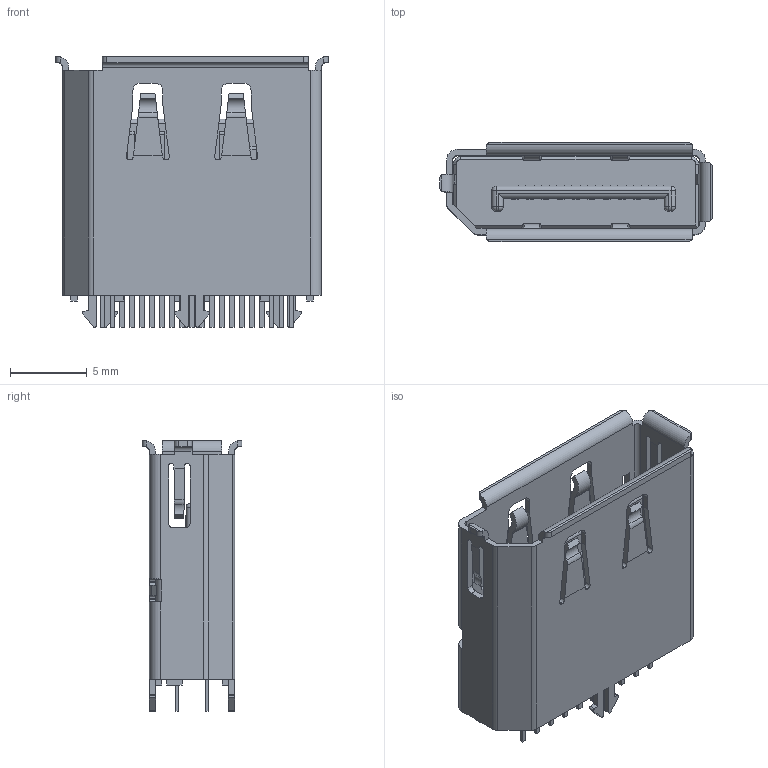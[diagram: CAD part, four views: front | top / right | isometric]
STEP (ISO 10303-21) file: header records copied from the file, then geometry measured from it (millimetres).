
FILE_DESCRIPTION((''),'2;1');
FILE_NAME('C-2041441-1','2015-02-09T',('workeradm'),('Tyco Electronics Ltd.'),'PRO/ENGINEER BY PARAMETRIC TECHNOLOGY CORPORATION, 2014090','PRO/ENGINEER BY PARAMETRIC TECHNOLOGY CORPORATION, 2014090','');
FILE_SCHEMA(('AUTOMOTIVE_DESIGN { 1 0 10303 214 1 1 1 1 }'));
Length unit declared in the file: millimetre
Products named in the file (1): C-2041441-1
Bounding box: 17.8 x 6.5 x 17.67 mm (x, y, z)
Volume: 795.7 mm3; surface area: 1892 mm2
Topology: 1 solids, 1 shells, 531 faces, 1505 edges, 989 vertices
Faces by surface type: plane 366, cylinder 157, sphere 6, cone 2
Entity records: 17663 total; most frequent: CARTESIAN_POINT 3521, ORIENTED_EDGE 3010, DIRECTION 2773, EDGE_CURVE 1505, VECTOR 1163, LINE 1163, VERTEX_POINT 989, AXIS2_PLACEMENT_3D 805
